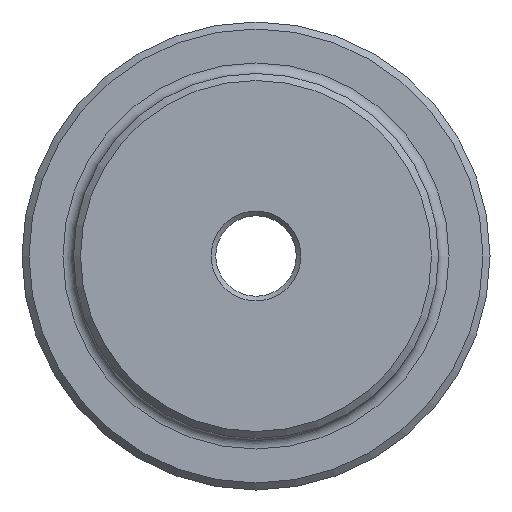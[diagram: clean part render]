
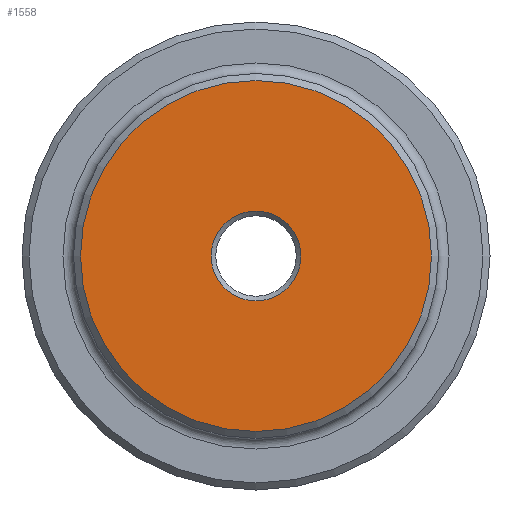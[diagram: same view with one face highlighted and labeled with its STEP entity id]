
A CAD part, left-side view. The second image highlights one B-rep face of the part: STEP entity #1558.
In plain terms, the highlighted planar face has unit normal (-1, 0, 0).
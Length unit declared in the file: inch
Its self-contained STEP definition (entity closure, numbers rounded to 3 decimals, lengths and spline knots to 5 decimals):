
#32 = FACE_BOUND ( 'NONE', #797, .T. ) ;
#96 = FACE_OUTER_BOUND ( 'NONE', #799, .T. ) ;
#114 = EDGE_CURVE ( 'NONE', #489, #489, #1142, .T. ) ;
#489 = VERTEX_POINT ( 'NONE', #1167 ) ;
#532 = CIRCLE ( 'NONE', #1574, 1.5 ) ;
#597 = DIRECTION ( 'NONE',  ( 1., 0., 0. ) ) ;
#604 = CARTESIAN_POINT ( 'NONE',  ( 0., 0., 0. ) ) ;
#608 = DIRECTION ( 'NONE',  ( -1., 0., 0. ) ) ;
#679 = EDGE_CURVE ( 'NONE', #1328, #1328, #532, .T. ) ;
#704 = ORIENTED_EDGE ( 'NONE', *, *, #679, .T. ) ;
#753 = PLANE ( 'NONE',  #910 ) ;
#785 = DIRECTION ( 'NONE',  ( 0., 0., -1. ) ) ;
#797 = EDGE_LOOP ( 'NONE', ( #1308 ) ) ;
#799 = EDGE_LOOP ( 'NONE', ( #704 ) ) ;
#910 = AXIS2_PLACEMENT_3D ( 'NONE', #604, #911, #785 ) ;
#911 = DIRECTION ( 'NONE',  ( 1., 0., 0. ) ) ;
#924 = CARTESIAN_POINT ( 'NONE',  ( 0., 0., -1.5 ) ) ;
#1090 = AXIS2_PLACEMENT_3D ( 'NONE', #1745, #597, #1773 ) ;
#1142 = CIRCLE ( 'NONE', #1090, 0.3839 ) ;
#1167 = CARTESIAN_POINT ( 'NONE',  ( 0., 0., -0.3839 ) ) ;
#1308 = ORIENTED_EDGE ( 'NONE', *, *, #114, .T. ) ;
#1328 = VERTEX_POINT ( 'NONE', #924 ) ;
#1434 = DIRECTION ( 'NONE',  ( 0., 0., -1. ) ) ;
#1490 = CARTESIAN_POINT ( 'NONE',  ( 0., 0., 0. ) ) ;
#1558 = ADVANCED_FACE ( 'NONE', ( #32, #96 ), #753, .F. ) ;
#1574 = AXIS2_PLACEMENT_3D ( 'NONE', #1490, #608, #1434 ) ;
#1745 = CARTESIAN_POINT ( 'NONE',  ( 0., 0., 0. ) ) ;
#1773 = DIRECTION ( 'NONE',  ( 0., 0., -1. ) ) ;
